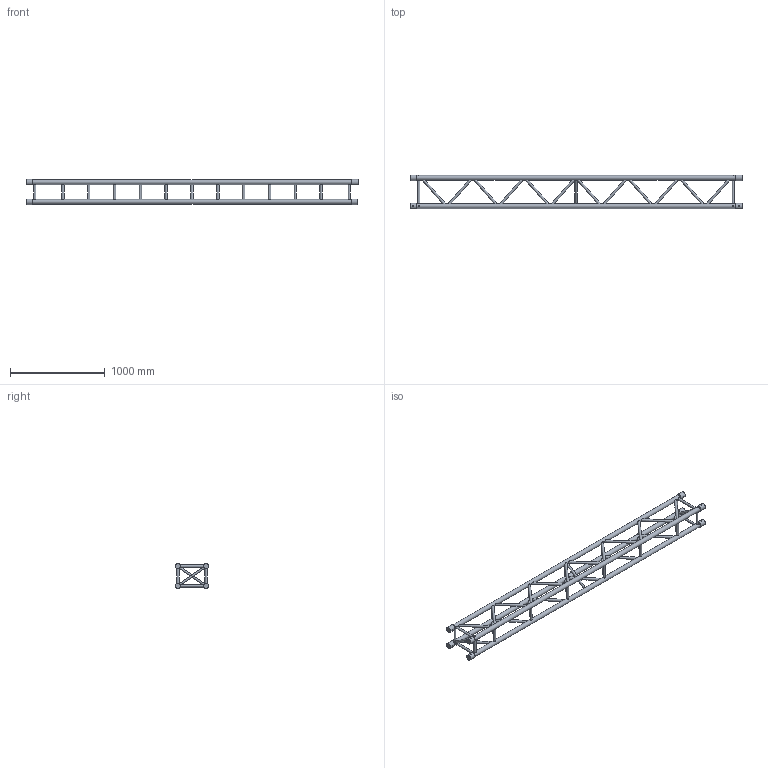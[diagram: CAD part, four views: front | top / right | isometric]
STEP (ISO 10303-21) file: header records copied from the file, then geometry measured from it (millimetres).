
FILE_DESCRIPTION(/* description */ (''),/* implementation_level */ '2;1');
FILE_NAME(/* name */ 'C:\Users\adrian.toca\Desktop\111110054.stp',/* time_stamp */ '2016-09-15T12:01:00+03:00',/* author */ ('adrian.toca'),/* organization */ (''),/* preprocessor_version */ 'ST-DEVELOPER v15.6',/* originating_system */ 'Autodesk Inventor 2015',/* authorisation */ '');
FILE_SCHEMA (('AUTOMOTIVE_DESIGN { 1 0 10303 214 3 1 1 }'));
Length unit declared in the file: millimetre
Products named in the file (1): 260030910
Bounding box: 3500 x 357.8 x 265.8 mm (x, y, z)
Volume: 33703644.5 mm3; surface area: 3246874 mm2
Topology: 19 solids, 26 shells, 256 faces, 512 edges, 320 vertices
Faces by surface type: cylinder 134, plane 114, cone 8
Full cylindrical faces by diameter (mm): 10 x8, 25 x46, 50 x4, 58.8 x8
Entity records: 8619 total; most frequent: CARTESIAN_POINT 4079, DIRECTION 832, ORIENTED_EDGE 756, EDGE_LOOP 420, AXIS2_PLACEMENT_3D 391, EDGE_CURVE 332, VERTEX_POINT 246, STYLED_ITEM 222
